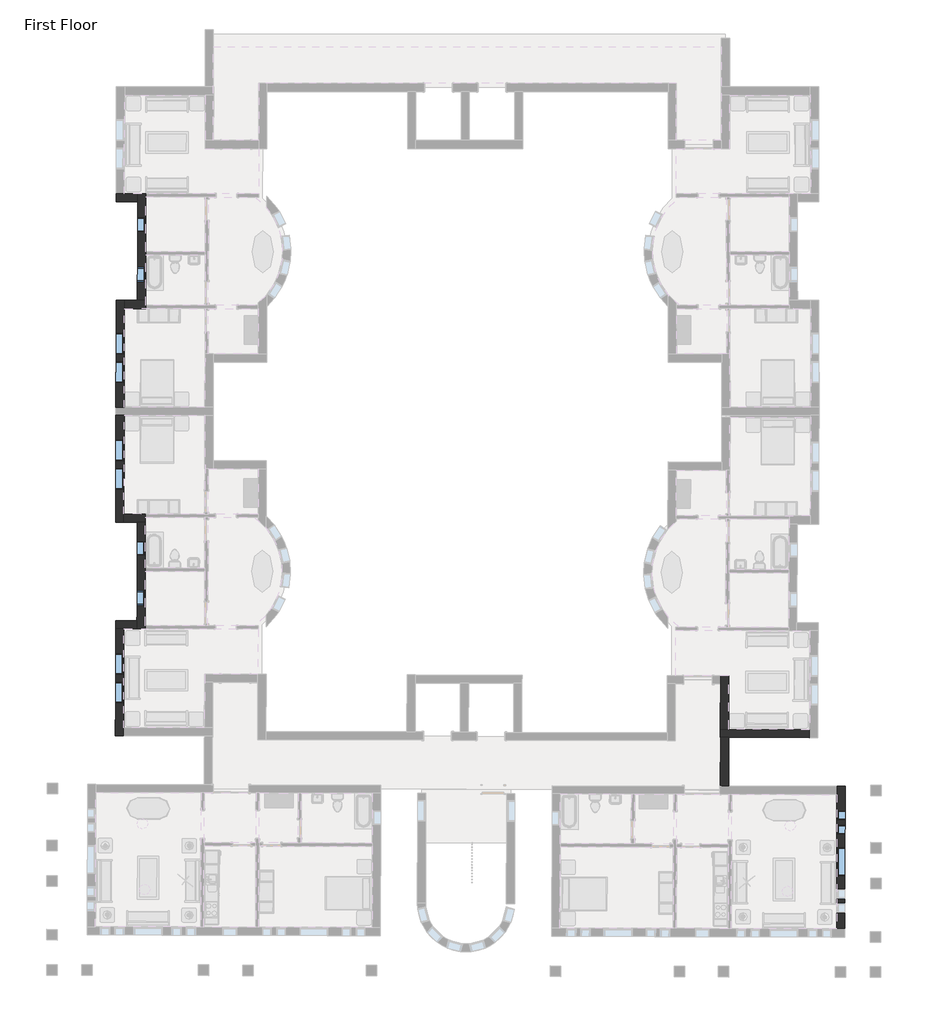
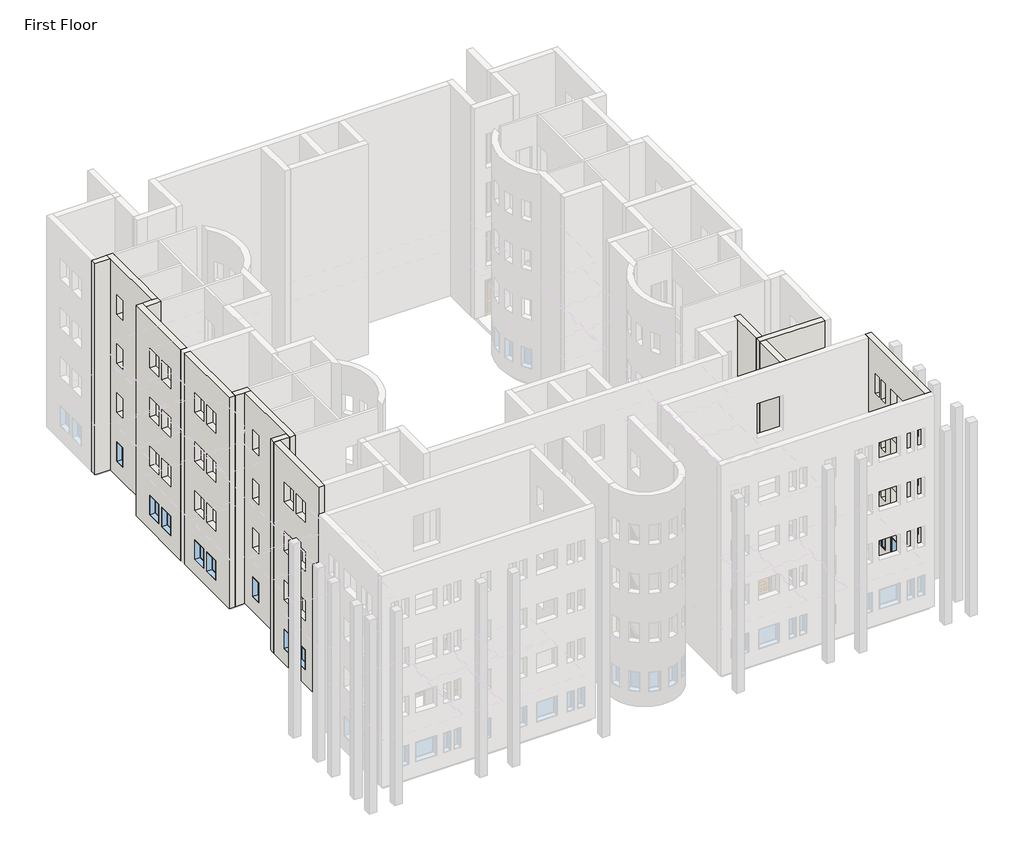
# One storey, part 5 of 22: 13 walls, 13 windows.
"""IFC4 building model written with IfcOpenShell, lengths in millimetres."""

from ifc_helpers import new_model, si_unit, origin, place, context, project, spatial, faceted_brep, transform, mapped, element, save
from components import m_fixed_0406_x_1220mm_57fee329, m_fixed_0610_x_1220mm_2c28ef1d, m_fixed_0610_x_1220mm_1ea27827, m_fixed_0915_x_1220mm_bde29121, m_fixed_0915_x_1220mm_2a2509e7, m_fixed_1220_x_1220mm_8f5f8ad3

model = new_model("IFC4")

# Units and contexts
model_context = context("Model", 3, world=origin())
ifc_project = project(units=[si_unit("LENGTHUNIT", "METRE", prefix="MILLI")], contexts=[model_context])

# Site, building, storey
site = spatial("IfcSite", under=ifc_project)
building = spatial("IfcBuilding", under=site)
storey = spatial("IfcBuildingStorey", under=building, Name="First Floor", Elevation=0.0)

# Walls
placement = place(None, origin())
element("IfcWall", 1, ObjectType="Exterior - Brick on Mtl. Stud", at=placement, inside=storey, context=model_context, shape_type="Brep", body=[
    faceted_brep([(-33657.6317367, -19488.7544857, 0.0), (-33651.5206937, -15266.7589083, 0.0), (-33651.0140937, -14916.759275, 0.0), (-33651.0140937, -14916.759275, 13107.0), (-33651.5206937, -15266.7589083, 13107.0), (-33657.6317367, -19488.7544857, 13107.0), (-33654.7963691, -17529.8565377, 915.0), (-33656.1207661, -18444.8555792, 915.0), (-33656.1207661, -18444.8555792, 2135.0), (-33654.7963691, -17529.8565377, 2135.0), (-33653.0316643, -16310.6578148, 915.0), (-33654.3560613, -17225.6568563, 915.0), (-33654.3560613, -17225.6568563, 2135.0), (-33653.0316643, -16310.6578148, 2135.0), (-33653.0316643, -16310.6578148, 10059.0), (-33654.3560613, -17225.6568563, 10059.0), (-33654.3560613, -17225.6568563, 11279.0), (-33653.0316643, -16310.6578148, 11279.0), (-33654.7963691, -17529.8565377, 10059.0), (-33656.1207661, -18444.8555792, 10059.0), (-33656.1207661, -18444.8555792, 11279.0), (-33654.7963691, -17529.8565377, 11279.0), (-33653.0316643, -16310.6578148, 3963.0), (-33654.3560613, -17225.6568563, 3963.0), (-33654.3560613, -17225.6568563, 5183.0), (-33653.0316643, -16310.6578148, 5183.0), (-33654.7963691, -17529.8565377, 3963.0), (-33656.1207661, -18444.8555792, 3963.0), (-33656.1207661, -18444.8555792, 5183.0), (-33654.7963691, -17529.8565377, 5183.0), (-33653.0316643, -16310.6578148, 7011.0), (-33654.3560613, -17225.6568563, 7011.0), (-33654.3560613, -17225.6568563, 8231.0), (-33653.0316643, -16310.6578148, 8231.0), (-33654.7963691, -17529.8565377, 7011.0), (-33656.1207661, -18444.8555792, 7011.0), (-33656.1207661, -18444.8555792, 8231.0), (-33654.7963691, -17529.8565377, 8231.0), (-34007.6313701, -19488.2478857, 0.0), (-34007.6313701, -19488.2478857, 13107.0), (-34001.0137271, -14916.252675, 13107.0), (-34001.0137271, -14916.252675, 0.0), (-34004.7960024, -17529.3499377, 915.0), (-34004.7960024, -17529.3499377, 2135.0), (-34006.1203995, -18444.3489792, 2135.0), (-34006.1203995, -18444.3489792, 915.0), (-34003.0312976, -16310.1512149, 915.0), (-34003.0312976, -16310.1512149, 2135.0), (-34004.3556947, -17225.1502564, 2135.0), (-34004.3556947, -17225.1502564, 915.0), (-34003.0312976, -16310.1512149, 10059.0), (-34003.0312976, -16310.1512149, 11279.0), (-34004.3556947, -17225.1502564, 11279.0), (-34004.3556947, -17225.1502564, 10059.0), (-34004.7960024, -17529.3499377, 10059.0), (-34004.7960024, -17529.3499377, 11279.0), (-34006.1203995, -18444.3489792, 11279.0), (-34006.1203995, -18444.3489792, 10059.0), (-34003.0312976, -16310.1512149, 3963.0), (-34003.0312976, -16310.1512149, 5183.0), (-34004.3556947, -17225.1502564, 5183.0), (-34004.3556947, -17225.1502564, 3963.0), (-34004.7960024, -17529.3499377, 3963.0), (-34004.7960024, -17529.3499377, 5183.0), (-34006.1203995, -18444.3489792, 5183.0), (-34006.1203995, -18444.3489792, 3963.0), (-34003.0312976, -16310.1512149, 7011.0), (-34003.0312976, -16310.1512149, 8231.0), (-34004.3556947, -17225.1502564, 8231.0), (-34004.3556947, -17225.1502564, 7011.0), (-34004.7960024, -17529.3499377, 7011.0), (-34004.7960024, -17529.3499377, 8231.0), (-34006.1203995, -18444.3489792, 8231.0), (-34006.1203995, -18444.3489792, 7011.0)], [[[0, 1, 2, 3, 4, 5], [6, 7, 8, 9], [10, 11, 12, 13], [14, 15, 16, 17], [18, 19, 20, 21], [22, 23, 24, 25], [26, 27, 28, 29], [30, 31, 32, 33], [34, 35, 36, 37]], [[38, 39, 40, 41], [42, 43, 44, 45], [46, 47, 48, 49], [50, 51, 52, 53], [54, 55, 56, 57], [58, 59, 60, 61], [62, 63, 64, 65], [66, 67, 68, 69], [70, 71, 72, 73]], [[2, 1, 0, 38, 41]], [[5, 4, 3, 40, 39]], [[0, 5, 39, 38]], [[3, 2, 41, 40]], [[43, 42, 6, 9]], [[44, 43, 9, 8]], [[45, 44, 8, 7]], [[42, 45, 7, 6]], [[47, 46, 10, 13]], [[48, 47, 13, 12]], [[49, 48, 12, 11]], [[46, 49, 11, 10]], [[51, 50, 14, 17]], [[52, 51, 17, 16]], [[53, 52, 16, 15]], [[50, 53, 15, 14]], [[55, 54, 18, 21]], [[56, 55, 21, 20]], [[57, 56, 20, 19]], [[54, 57, 19, 18]], [[59, 58, 22, 25]], [[60, 59, 25, 24]], [[61, 60, 24, 23]], [[58, 61, 23, 22]], [[63, 62, 26, 29]], [[64, 63, 29, 28]], [[65, 64, 28, 27]], [[62, 65, 27, 26]], [[67, 66, 30, 33]], [[68, 67, 33, 32]], [[69, 68, 32, 31]], [[66, 69, 31, 30]], [[71, 70, 34, 37]], [[72, 71, 37, 36]], [[73, 72, 36, 35]], [[70, 73, 35, 34]]]),
])
element("IfcWall", 2, ObjectType="Exterior - Brick on Mtl. Stud", at=placement, inside=storey, context=model_context, shape_type="Brep", body=[
    faceted_brep([(-33651.5206937, -15266.7589083, 0.0), (-32737.1216515, -15268.0824369, 0.0), (-32737.1216515, -15268.0824369, 13107.0), (-33651.5206937, -15266.7589083, 13107.0), (-33651.0140937, -14916.759275, 0.0), (-33651.0140937, -14916.759275, 13107.0), (-33086.6146849, -14917.5762036, 13107.0), (-32736.6150516, -14918.0828036, 13107.0), (-32736.6150516, -14918.0828036, 0.0), (-33086.6146849, -14917.5762036, 0.0), (-32736.9150311, -15125.3325865, 0.0), (-32737.1111577, -15260.8324445, 0.0), (-32737.1111577, -15260.8324445, 13107.0), (-32736.9150311, -15125.3325865, 13107.0)], [[[0, 1, 2, 3]], [[4, 5, 6, 7, 8, 9]], [[1, 0, 4, 9, 8, 10, 11]], [[3, 2, 12, 13, 7, 6, 5]], [[0, 3, 5, 4]], [[2, 1, 11, 10, 8, 7, 13, 12]]]),
])
element("IfcWall", 3, ObjectType="Exterior - Brick on Mtl. Stud", at=placement, inside=storey, context=model_context, shape_type="Brep", body=[
    faceted_brep([(-32736.6150516, -14918.0828036, 0.0), (-32733.7801182, -12959.4848553, 0.0), (-32733.5839916, -12823.9849972, 0.0), (-32730.204029, -10488.8374433, 0.0), (-32730.0079025, -10353.3375853, 0.0), (-32729.9974086, -10346.0875929, 0.0), (-32729.9974086, -10346.0875929, 13107.0), (-32730.0079025, -10353.3375853, 13107.0), (-32730.204029, -10488.8374433, 13107.0), (-32733.5839916, -12823.9849972, 13107.0), (-32733.7801182, -12959.4848553, 13107.0), (-32736.6150516, -14918.0828036, 13107.0), (-32734.5641178, -13501.1342879, 915.0), (-32735.4470492, -14111.1336489, 915.0), (-32735.4470492, -14111.1336489, 2135.0), (-32734.5641178, -13501.1342879, 2135.0), (-32731.4758844, -11367.5365229, 915.0), (-32732.3588158, -11977.5358839, 915.0), (-32732.3588158, -11977.5358839, 2135.0), (-32731.4758844, -11367.5365229, 2135.0), (-32731.4758844, -11367.5365229, 10059.0), (-32732.3588158, -11977.5358839, 10059.0), (-32732.3588158, -11977.5358839, 11279.0), (-32731.4758844, -11367.5365229, 11279.0), (-32734.5641178, -13501.1342879, 10059.0), (-32735.4470492, -14111.1336489, 10059.0), (-32735.4470492, -14111.1336489, 11279.0), (-32734.5641178, -13501.1342879, 11279.0), (-32731.4758844, -11367.5365229, 3963.0), (-32732.3588158, -11977.5358839, 3963.0), (-32732.3588158, -11977.5358839, 5183.0), (-32731.4758844, -11367.5365229, 5183.0), (-32734.5641178, -13501.1342879, 3963.0), (-32735.4470492, -14111.1336489, 3963.0), (-32735.4470492, -14111.1336489, 5183.0), (-32734.5641178, -13501.1342879, 5183.0), (-32731.4758844, -11367.5365229, 7011.0), (-32732.3588158, -11977.5358839, 7011.0), (-32732.3588158, -11977.5358839, 8231.0), (-32731.4758844, -11367.5365229, 8231.0), (-32734.5641178, -13501.1342879, 7011.0), (-32735.4470492, -14111.1336489, 7011.0), (-32735.4470492, -14111.1336489, 8231.0), (-32734.5641178, -13501.1342879, 8231.0), (-33086.6146849, -14917.5762036, 0.0), (-33086.6146849, -14917.5762036, 13107.0), (-33080.5036419, -10695.5806263, 13107.0), (-33079.997042, -10345.5809929, 13107.0), (-33079.997042, -10345.5809929, 0.0), (-33080.5036419, -10695.5806263, 0.0), (-33084.5637512, -13500.6276879, 915.0), (-33084.5637512, -13500.6276879, 2135.0), (-33085.4466825, -14110.6270489, 2135.0), (-33085.4466825, -14110.6270489, 915.0), (-33081.4755178, -11367.0299229, 915.0), (-33081.4755178, -11367.0299229, 2135.0), (-33082.3584491, -11977.0292839, 2135.0), (-33082.3584491, -11977.0292839, 915.0), (-33081.4755178, -11367.0299229, 10059.0), (-33081.4755178, -11367.0299229, 11279.0), (-33082.3584491, -11977.0292839, 11279.0), (-33082.3584491, -11977.0292839, 10059.0), (-33084.5637512, -13500.6276879, 10059.0), (-33084.5637512, -13500.6276879, 11279.0), (-33085.4466825, -14110.6270489, 11279.0), (-33085.4466825, -14110.6270489, 10059.0), (-33081.4755178, -11367.0299229, 3963.0), (-33081.4755178, -11367.0299229, 5183.0), (-33082.3584491, -11977.0292839, 5183.0), (-33082.3584491, -11977.0292839, 3963.0), (-33084.5637512, -13500.6276879, 3963.0), (-33084.5637512, -13500.6276879, 5183.0), (-33085.4466825, -14110.6270489, 5183.0), (-33085.4466825, -14110.6270489, 3963.0), (-33081.4755178, -11367.0299229, 7011.0), (-33081.4755178, -11367.0299229, 8231.0), (-33082.3584491, -11977.0292839, 8231.0), (-33082.3584491, -11977.0292839, 7011.0), (-33084.5637512, -13500.6276879, 7011.0), (-33084.5637512, -13500.6276879, 8231.0), (-33085.4466825, -14110.6270489, 8231.0), (-33085.4466825, -14110.6270489, 7011.0)], [[[0, 1, 2, 3, 4, 5, 6, 7, 8, 9, 10, 11], [12, 13, 14, 15], [16, 17, 18, 19], [20, 21, 22, 23], [24, 25, 26, 27], [28, 29, 30, 31], [32, 33, 34, 35], [36, 37, 38, 39], [40, 41, 42, 43]], [[44, 45, 46, 47, 48, 49], [50, 51, 52, 53], [54, 55, 56, 57], [58, 59, 60, 61], [62, 63, 64, 65], [66, 67, 68, 69], [70, 71, 72, 73], [74, 75, 76, 77], [78, 79, 80, 81]], [[5, 4, 3, 2, 1, 0, 44, 49, 48]], [[11, 10, 9, 8, 7, 6, 47, 46, 45]], [[0, 11, 45, 44]], [[6, 5, 48, 47]], [[51, 50, 12, 15]], [[52, 51, 15, 14]], [[53, 52, 14, 13]], [[50, 53, 13, 12]], [[55, 54, 16, 19]], [[56, 55, 19, 18]], [[57, 56, 18, 17]], [[54, 57, 17, 16]], [[59, 58, 20, 23]], [[60, 59, 23, 22]], [[61, 60, 22, 21]], [[58, 61, 21, 20]], [[63, 62, 24, 27]], [[64, 63, 27, 26]], [[65, 64, 26, 25]], [[62, 65, 25, 24]], [[67, 66, 28, 31]], [[68, 67, 31, 30]], [[69, 68, 30, 29]], [[66, 69, 29, 28]], [[71, 70, 32, 35]], [[72, 71, 35, 34]], [[73, 72, 34, 33]], [[70, 73, 33, 32]], [[75, 74, 36, 39]], [[76, 75, 39, 38]], [[77, 76, 38, 37]], [[74, 77, 37, 36]], [[79, 78, 40, 43]], [[80, 79, 43, 42]], [[81, 80, 42, 41]], [[78, 81, 41, 40]]]),
])
element("IfcWall", 4, ObjectType="Exterior - Brick on Mtl. Stud", at=placement, inside=storey, context=model_context, shape_type="Brep", body=[
    faceted_brep([(-33079.997042, -10345.5809929, 0.0), (-33644.3964507, -10344.7640643, 0.0), (-33809.3962779, -10344.5252386, 0.0), (-33994.3960841, -10344.2574643, 0.0), (-33994.3960841, -10344.2574643, 13107.0), (-33644.3964507, -10344.7640643, 13107.0), (-33079.997042, -10345.5809929, 13107.0), (-33080.5036419, -10695.5806263, 0.0), (-33080.5036419, -10695.5806263, 13107.0), (-33994.9026841, -10694.2570977, 13107.0), (-33994.9026841, -10694.2570977, 0.0), (-33809.9028779, -10694.5248719, 0.0), (-33080.2358677, -10510.58082, 0.0), (-33994.6349098, -10509.2572915, 0.0), (-33809.6351036, -10509.5250657, 0.0)], [[[0, 1, 2, 3, 4, 5, 6]], [[7, 8, 9, 10, 11]], [[6, 5, 4, 9, 8]], [[0, 6, 8, 7, 12]], [[4, 3, 13, 10, 9]], [[12, 7, 11, 14]], [[3, 2, 14, 13]], [[14, 11, 10, 13]], [[2, 1, 0, 12, 14]]]),
])
element("IfcWall", 5, ObjectType="Exterior - Brick on Mtl. Stud", at=placement, inside=storey, context=model_context, shape_type="Brep", body=[
    faceted_brep([(-2807.360214, -41823.0280554, 0.0), (-2790.2487325, -35912.0528231, 0.0), (-2789.7131845, -35727.0535983, 0.0), (-2789.7131845, -35727.0535983, 13107.0), (-2807.360214, -41823.0280554, 13107.0), (-2797.2774378, -38340.0426495, 915.0), (-2800.8091595, -39560.0375376, 915.0), (-2800.8091595, -39560.0375376, 2135.0), (-2797.2774378, -38340.0426495, 2135.0), (-2802.424488, -40118.0351996, 915.0), (-2803.5997987, -40524.0334984, 915.0), (-2803.5997987, -40524.0334984, 2135.0), (-2802.424488, -40118.0351996, 2135.0), (-2804.1903489, -40728.0326436, 915.0), (-2805.3656596, -41134.0309424, 915.0), (-2805.3656596, -41134.0309424, 2135.0), (-2804.1903489, -40728.0326436, 2135.0), (-2795.6621093, -37782.0449876, 915.0), (-2795.6621093, -37782.0449876, 2135.0), (-2794.4867986, -37376.0466888, 2135.0), (-2794.4867986, -37376.0466888, 915.0), (-2793.8962484, -37172.0475436, 915.0), (-2793.8962484, -37172.0475436, 2135.0), (-2792.7209377, -36766.0492448, 2135.0), (-2792.7209377, -36766.0492448, 915.0), (-2795.6621093, -37782.0449876, 10059.0), (-2795.6621093, -37782.0449876, 11279.0), (-2794.4867986, -37376.0466888, 11279.0), (-2794.4867986, -37376.0466888, 10059.0), (-2793.8962484, -37172.0475436, 10059.0), (-2793.8962484, -37172.0475436, 11279.0), (-2792.7209377, -36766.0492448, 11279.0), (-2792.7209377, -36766.0492448, 10059.0), (-2802.424488, -40118.0351996, 10059.0), (-2803.5997987, -40524.0334984, 10059.0), (-2803.5997987, -40524.0334984, 11279.0), (-2802.424488, -40118.0351996, 11279.0), (-2804.1903489, -40728.0326436, 10059.0), (-2805.3656596, -41134.0309424, 10059.0), (-2805.3656596, -41134.0309424, 11279.0), (-2804.1903489, -40728.0326436, 11279.0), (-2797.2774378, -38340.0426495, 10059.0), (-2800.8091595, -39560.0375376, 10059.0), (-2800.8091595, -39560.0375376, 11279.0), (-2797.2774378, -38340.0426495, 11279.0), (-2795.6621093, -37782.0449876, 3963.0), (-2795.6621093, -37782.0449876, 5183.0), (-2794.4867986, -37376.0466888, 5183.0), (-2794.4867986, -37376.0466888, 3963.0), (-2793.8962484, -37172.0475436, 3963.0), (-2793.8962484, -37172.0475436, 5183.0), (-2792.7209377, -36766.0492448, 5183.0), (-2792.7209377, -36766.0492448, 3963.0), (-2802.424488, -40118.0351996, 3963.0), (-2803.5997987, -40524.0334984, 3963.0), (-2803.5997987, -40524.0334984, 5183.0), (-2802.424488, -40118.0351996, 5183.0), (-2804.1903489, -40728.0326436, 3963.0), (-2805.3656596, -41134.0309424, 3963.0), (-2805.3656596, -41134.0309424, 5183.0), (-2804.1903489, -40728.0326436, 5183.0), (-2797.2774378, -38340.0426495, 3963.0), (-2800.8091595, -39560.0375376, 3963.0), (-2800.8091595, -39560.0375376, 5183.0), (-2797.2774378, -38340.0426495, 5183.0), (-2795.6621093, -37782.0449876, 7011.0), (-2795.6621093, -37782.0449876, 8231.0), (-2794.4867986, -37376.0466888, 8231.0), (-2794.4867986, -37376.0466888, 7011.0), (-2793.8962484, -37172.0475436, 7011.0), (-2793.8962484, -37172.0475436, 8231.0), (-2792.7209377, -36766.0492448, 8231.0), (-2792.7209377, -36766.0492448, 7011.0), (-2802.424488, -40118.0351996, 7011.0), (-2803.5997987, -40524.0334984, 7011.0), (-2803.5997987, -40524.0334984, 8231.0), (-2802.424488, -40118.0351996, 8231.0), (-2804.1903489, -40728.0326436, 7011.0), (-2805.3656596, -41134.0309424, 7011.0), (-2805.3656596, -41134.0309424, 8231.0), (-2804.1903489, -40728.0326436, 8231.0), (-2797.2774378, -38340.0426495, 7011.0), (-2800.8091595, -39560.0375376, 7011.0), (-2800.8091595, -39560.0375376, 8231.0), (-2797.2774378, -38340.0426495, 8231.0), (-3157.3587474, -41822.0148566, 0.0), (-3157.3587474, -41822.0148566, 13107.0), (-3140.7249168, -36076.0389329, 13107.0), (-3139.711718, -35726.0403994, 13107.0), (-3139.711718, -35726.0403994, 0.0), (-3140.2472659, -35911.0396242, 0.0), (-3140.7249168, -36076.0389329, 0.0), (-3147.2759712, -38339.0294507, 915.0), (-3147.2759712, -38339.0294507, 2135.0), (-3150.807693, -39559.0243388, 2135.0), (-3150.807693, -39559.0243388, 915.0), (-3152.4230215, -40117.0220007, 915.0), (-3152.4230215, -40117.0220007, 2135.0), (-3153.5983322, -40523.0202995, 2135.0), (-3153.5983322, -40523.0202995, 915.0), (-3154.1888824, -40727.0194447, 915.0), (-3154.1888824, -40727.0194447, 2135.0), (-3155.3641931, -41133.0177435, 2135.0), (-3155.3641931, -41133.0177435, 915.0), (-3145.6606427, -37781.0317888, 915.0), (-3144.4853321, -37375.0334899, 915.0), (-3144.4853321, -37375.0334899, 2135.0), (-3145.6606427, -37781.0317888, 2135.0), (-3143.8947819, -37171.0343447, 915.0), (-3142.7194712, -36765.0360459, 915.0), (-3142.7194712, -36765.0360459, 2135.0), (-3143.8947819, -37171.0343447, 2135.0), (-3145.6606427, -37781.0317888, 10059.0), (-3144.4853321, -37375.0334899, 10059.0), (-3144.4853321, -37375.0334899, 11279.0), (-3145.6606427, -37781.0317888, 11279.0), (-3143.8947819, -37171.0343447, 10059.0), (-3142.7194712, -36765.0360459, 10059.0), (-3142.7194712, -36765.0360459, 11279.0), (-3143.8947819, -37171.0343447, 11279.0), (-3152.4230215, -40117.0220007, 10059.0), (-3152.4230215, -40117.0220007, 11279.0), (-3153.5983322, -40523.0202995, 11279.0), (-3153.5983322, -40523.0202995, 10059.0), (-3154.1888824, -40727.0194447, 10059.0), (-3154.1888824, -40727.0194447, 11279.0), (-3155.3641931, -41133.0177435, 11279.0), (-3155.3641931, -41133.0177435, 10059.0), (-3147.2759712, -38339.0294507, 10059.0), (-3147.2759712, -38339.0294507, 11279.0), (-3150.807693, -39559.0243388, 11279.0), (-3150.807693, -39559.0243388, 10059.0), (-3145.6606427, -37781.0317888, 3963.0), (-3144.4853321, -37375.0334899, 3963.0), (-3144.4853321, -37375.0334899, 5183.0), (-3145.6606427, -37781.0317888, 5183.0), (-3143.8947819, -37171.0343447, 3963.0), (-3142.7194712, -36765.0360459, 3963.0), (-3142.7194712, -36765.0360459, 5183.0), (-3143.8947819, -37171.0343447, 5183.0), (-3152.4230215, -40117.0220007, 3963.0), (-3152.4230215, -40117.0220007, 5183.0), (-3153.5983322, -40523.0202995, 5183.0), (-3153.5983322, -40523.0202995, 3963.0), (-3154.1888824, -40727.0194447, 3963.0), (-3154.1888824, -40727.0194447, 5183.0), (-3155.3641931, -41133.0177435, 5183.0), (-3155.3641931, -41133.0177435, 3963.0), (-3147.2759712, -38339.0294507, 3963.0), (-3147.2759712, -38339.0294507, 5183.0), (-3150.807693, -39559.0243388, 5183.0), (-3150.807693, -39559.0243388, 3963.0), (-3145.6606427, -37781.0317888, 7011.0), (-3144.4853321, -37375.0334899, 7011.0), (-3144.4853321, -37375.0334899, 8231.0), (-3145.6606427, -37781.0317888, 8231.0), (-3143.8947819, -37171.0343447, 7011.0), (-3142.7194712, -36765.0360459, 7011.0), (-3142.7194712, -36765.0360459, 8231.0), (-3143.8947819, -37171.0343447, 8231.0), (-3152.4230215, -40117.0220007, 7011.0), (-3152.4230215, -40117.0220007, 8231.0), (-3153.5983322, -40523.0202995, 8231.0), (-3153.5983322, -40523.0202995, 7011.0), (-3154.1888824, -40727.0194447, 7011.0), (-3154.1888824, -40727.0194447, 8231.0), (-3155.3641931, -41133.0177435, 8231.0), (-3155.3641931, -41133.0177435, 7011.0), (-3147.2759712, -38339.0294507, 7011.0), (-3147.2759712, -38339.0294507, 8231.0), (-3150.807693, -39559.0243388, 8231.0), (-3150.807693, -39559.0243388, 7011.0), (-2974.7124093, -35726.5180503, 0.0), (-2992.3594388, -41822.4925075, 0.0), (-2975.2479573, -35911.5172751, 0.0)], [[[0, 1, 2, 3, 4], [5, 6, 7, 8], [9, 10, 11, 12], [13, 14, 15, 16], [17, 18, 19, 20], [21, 22, 23, 24], [25, 26, 27, 28], [29, 30, 31, 32], [33, 34, 35, 36], [37, 38, 39, 40], [41, 42, 43, 44], [45, 46, 47, 48], [49, 50, 51, 52], [53, 54, 55, 56], [57, 58, 59, 60], [61, 62, 63, 64], [65, 66, 67, 68], [69, 70, 71, 72], [73, 74, 75, 76], [77, 78, 79, 80], [81, 82, 83, 84]], [[85, 86, 87, 88, 89, 90, 91], [92, 93, 94, 95], [96, 97, 98, 99], [100, 101, 102, 103], [104, 105, 106, 107], [108, 109, 110, 111], [112, 113, 114, 115], [116, 117, 118, 119], [120, 121, 122, 123], [124, 125, 126, 127], [128, 129, 130, 131], [132, 133, 134, 135], [136, 137, 138, 139], [140, 141, 142, 143], [144, 145, 146, 147], [148, 149, 150, 151], [152, 153, 154, 155], [156, 157, 158, 159], [160, 161, 162, 163], [164, 165, 166, 167], [168, 169, 170, 171]], [[4, 3, 88, 87, 86]], [[93, 92, 5, 8]], [[94, 93, 8, 7]], [[95, 94, 7, 6]], [[92, 95, 6, 5]], [[97, 96, 9, 12]], [[98, 97, 12, 11]], [[99, 98, 11, 10]], [[96, 99, 10, 9]], [[101, 100, 13, 16]], [[102, 101, 16, 15]], [[103, 102, 15, 14]], [[100, 103, 14, 13]], [[18, 17, 104, 107]], [[19, 18, 107, 106]], [[20, 19, 106, 105]], [[17, 20, 105, 104]], [[22, 21, 108, 111]], [[23, 22, 111, 110]], [[24, 23, 110, 109]], [[21, 24, 109, 108]], [[26, 25, 112, 115]], [[27, 26, 115, 114]], [[28, 27, 114, 113]], [[25, 28, 113, 112]], [[30, 29, 116, 119]], [[31, 30, 119, 118]], [[32, 31, 118, 117]], [[29, 32, 117, 116]], [[121, 120, 33, 36]], [[122, 121, 36, 35]], [[123, 122, 35, 34]], [[120, 123, 34, 33]], [[125, 124, 37, 40]], [[126, 125, 40, 39]], [[127, 126, 39, 38]], [[124, 127, 38, 37]], [[129, 128, 41, 44]], [[130, 129, 44, 43]], [[131, 130, 43, 42]], [[128, 131, 42, 41]], [[46, 45, 132, 135]], [[47, 46, 135, 134]], [[48, 47, 134, 133]], [[45, 48, 133, 132]], [[50, 49, 136, 139]], [[51, 50, 139, 138]], [[52, 51, 138, 137]], [[49, 52, 137, 136]], [[141, 140, 53, 56]], [[142, 141, 56, 55]], [[143, 142, 55, 54]], [[140, 143, 54, 53]], [[145, 144, 57, 60]], [[146, 145, 60, 59]], [[147, 146, 59, 58]], [[144, 147, 58, 57]], [[149, 148, 61, 64]], [[150, 149, 64, 63]], [[151, 150, 63, 62]], [[148, 151, 62, 61]], [[66, 65, 152, 155]], [[67, 66, 155, 154]], [[68, 67, 154, 153]], [[65, 68, 153, 152]], [[70, 69, 156, 159]], [[71, 70, 159, 158]], [[72, 71, 158, 157]], [[69, 72, 157, 156]], [[161, 160, 73, 76]], [[162, 161, 76, 75]], [[163, 162, 75, 74]], [[160, 163, 74, 73]], [[165, 164, 77, 80]], [[166, 165, 80, 79]], [[167, 166, 79, 78]], [[164, 167, 78, 77]], [[169, 168, 81, 84]], [[170, 169, 84, 83]], [[171, 170, 83, 82]], [[168, 171, 82, 81]], [[3, 2, 172, 89, 88]], [[0, 4, 86, 85, 173]], [[90, 89, 172, 174]], [[1, 0, 173, 174]], [[2, 1, 174, 172]], [[173, 85, 91, 90, 174]]]),
])
element("IfcWall", 6, ObjectType="Exterior - Brick on Mtl. Stud", at=placement, inside=storey, context=model_context, shape_type="Brep", body=[
    faceted_brep([(-7779.4422769, -35712.609001, 0.0), (-7773.3981375, -33624.7267446, 0.0), (-7773.3981375, -33624.7267446, 13107.0), (-7779.4422769, -35712.609001, 13107.0), (-8129.4408104, -35711.5958021, 0.0), (-8129.4408104, -35711.5958021, 13107.0), (-8123.3952044, -33623.2069473, 13107.0), (-8123.3952044, -33623.2069473, 0.0), (-7964.4415018, -35712.073453, 0.0), (-7958.3965872, -33623.9234232, 0.0)], [[[0, 1, 2, 3]], [[4, 5, 6, 7]], [[3, 2, 6, 5]], [[0, 3, 5, 4, 8]], [[1, 0, 8, 9]], [[2, 1, 9, 7, 6]], [[8, 4, 7, 9]]]),
])
element("IfcWall", 7, ObjectType="Exterior - Brick on Mtl. Stud", at=placement, inside=storey, context=model_context, shape_type="Brep", body=[
    faceted_brep([(-4315.2201221, -33289.7399404, 0.0), (-7775.1875022, -33274.7156749, 0.0), (-7940.1859467, -33273.9991998, 0.0), (-8125.1842025, -33273.1958792, 0.0), (-8125.1842025, -33273.1958792, 13107.0), (-7775.1875022, -33274.7156749, 13107.0), (-4315.2201221, -33289.7399404, 13107.0), (-4316.7399178, -33639.7366407, 0.0), (-4316.7399178, -33639.7366407, 13107.0), (-7773.3981375, -33624.7267446, 13107.0), (-8123.3952044, -33623.2069473, 13107.0), (-8126.7039982, -33623.1925795, 13107.0), (-8126.7039982, -33623.1925795, 0.0), (-8123.3952044, -33623.2069473, 0.0), (-7941.7057423, -33623.9959001, 0.0), (-7773.3981375, -33624.7267446, 0.0), (-4315.9365972, -33454.7383849, 0.0), (-8125.9006776, -33438.1943236, 0.0), (-7940.9024218, -33438.9976442, 0.0)], [[[0, 1, 2, 3, 4, 5, 6]], [[7, 8, 9, 10, 11, 12, 13, 14, 15]], [[6, 5, 4, 11, 10, 9, 8]], [[0, 6, 8, 7, 16]], [[4, 3, 17, 12, 11]], [[16, 7, 15, 14, 18]], [[3, 2, 18, 17]], [[18, 14, 13, 12, 17]], [[2, 1, 0, 16, 18]]]),
])
element("IfcWall", 8, ObjectType="Exterior - Brick on Mtl. Stud", at=placement, inside=storey, context=model_context, shape_type="Brep", body=[
    faceted_brep([(-7775.1875022, -33274.7156749, 0.0), (-7765.9775406, -31153.735671, 0.0), (-7765.2610655, -30988.7372266, 0.0), (-7765.2610655, -30988.7372266, 13107.0), (-7775.1875022, -33274.7156749, 13107.0), (-8125.1842025, -33273.1958792, 0.0), (-8125.1842025, -33273.1958792, 13107.0), (-8116.7775614, -31337.2141313, 13107.0), (-8115.2577658, -30987.217431, 13107.0), (-8115.2577658, -30987.217431, 0.0), (-8115.9742409, -31152.2158754, 0.0), (-8116.7775614, -31337.2141313, 0.0), (-7940.1859467, -33273.9991998, 0.0), (-7930.975985, -31153.0191959, 0.0)], [[[0, 1, 2, 3, 4]], [[5, 6, 7, 8, 9, 10, 11]], [[4, 3, 8, 7, 6]], [[0, 4, 6, 5, 12]], [[12, 5, 11, 10, 13]], [[10, 9, 2, 1, 0, 12, 13]], [[3, 2, 9, 8]]]),
])
element("IfcWall", 9, ObjectType="Exterior - Brick on Mtl. Stud", at=placement, inside=storey, context=model_context, shape_type="Brep", body=[
    faceted_brep([(-34008.13797, -19838.2475191, 0.0), (-34014.755613, -24410.2427298, 0.0), (-34014.755613, -24410.2427298, 13107.0), (-34008.13797, -19838.2475191, 13107.0), (-34010.9733377, -21797.1454671, 915.0), (-34009.6489406, -20882.1464256, 915.0), (-34009.6489406, -20882.1464256, 2135.0), (-34010.9733377, -21797.1454671, 2135.0), (-34012.7380425, -23016.34419, 915.0), (-34011.4136454, -22101.3451484, 915.0), (-34011.4136454, -22101.3451484, 2135.0), (-34012.7380425, -23016.34419, 2135.0), (-34012.7380425, -23016.34419, 10059.0), (-34011.4136454, -22101.3451484, 10059.0), (-34011.4136454, -22101.3451484, 11279.0), (-34012.7380425, -23016.34419, 11279.0), (-34010.9733377, -21797.1454671, 10059.0), (-34009.6489406, -20882.1464256, 10059.0), (-34009.6489406, -20882.1464256, 11279.0), (-34010.9733377, -21797.1454671, 11279.0), (-34012.7380425, -23016.34419, 3963.0), (-34011.4136454, -22101.3451484, 3963.0), (-34011.4136454, -22101.3451484, 5183.0), (-34012.7380425, -23016.34419, 5183.0), (-34010.9733377, -21797.1454671, 3963.0), (-34009.6489406, -20882.1464256, 3963.0), (-34009.6489406, -20882.1464256, 5183.0), (-34010.9733377, -21797.1454671, 5183.0), (-34012.7380425, -23016.34419, 7011.0), (-34011.4136454, -22101.3451484, 7011.0), (-34011.4136454, -22101.3451484, 8231.0), (-34012.7380425, -23016.34419, 8231.0), (-34010.9733377, -21797.1454671, 7011.0), (-34009.6489406, -20882.1464256, 7011.0), (-34009.6489406, -20882.1464256, 8231.0), (-34010.9733377, -21797.1454671, 8231.0), (-33658.1383367, -19838.7541191, 0.0), (-33658.1383367, -19838.7541191, 13107.0), (-33664.2493797, -24060.7496964, 13107.0), (-33664.7559796, -24410.7493298, 13107.0), (-33664.7559796, -24410.7493298, 0.0), (-33664.2493797, -24060.7496964, 0.0), (-33660.9737043, -21797.6520671, 915.0), (-33660.9737043, -21797.6520671, 2135.0), (-33659.6493073, -20882.6530255, 2135.0), (-33659.6493073, -20882.6530255, 915.0), (-33662.7384091, -23016.8507899, 915.0), (-33662.7384091, -23016.8507899, 2135.0), (-33661.414012, -22101.8517484, 2135.0), (-33661.414012, -22101.8517484, 915.0), (-33662.7384091, -23016.8507899, 10059.0), (-33662.7384091, -23016.8507899, 11279.0), (-33661.414012, -22101.8517484, 11279.0), (-33661.414012, -22101.8517484, 10059.0), (-33660.9737043, -21797.6520671, 10059.0), (-33660.9737043, -21797.6520671, 11279.0), (-33659.6493073, -20882.6530255, 11279.0), (-33659.6493073, -20882.6530255, 10059.0), (-33662.7384091, -23016.8507899, 3963.0), (-33662.7384091, -23016.8507899, 5183.0), (-33661.414012, -22101.8517484, 5183.0), (-33661.414012, -22101.8517484, 3963.0), (-33660.9737043, -21797.6520671, 3963.0), (-33660.9737043, -21797.6520671, 5183.0), (-33659.6493073, -20882.6530255, 5183.0), (-33659.6493073, -20882.6530255, 3963.0), (-33662.7384091, -23016.8507899, 7011.0), (-33662.7384091, -23016.8507899, 8231.0), (-33661.414012, -22101.8517484, 8231.0), (-33661.414012, -22101.8517484, 7011.0), (-33660.9737043, -21797.6520671, 7011.0), (-33660.9737043, -21797.6520671, 8231.0), (-33659.6493073, -20882.6530255, 8231.0), (-33659.6493073, -20882.6530255, 7011.0)], [[[0, 1, 2, 3], [4, 5, 6, 7], [8, 9, 10, 11], [12, 13, 14, 15], [16, 17, 18, 19], [20, 21, 22, 23], [24, 25, 26, 27], [28, 29, 30, 31], [32, 33, 34, 35]], [[36, 37, 38, 39, 40, 41], [42, 43, 44, 45], [46, 47, 48, 49], [50, 51, 52, 53], [54, 55, 56, 57], [58, 59, 60, 61], [62, 63, 64, 65], [66, 67, 68, 69], [70, 71, 72, 73]], [[1, 0, 36, 41, 40]], [[3, 2, 39, 38, 37]], [[2, 1, 40, 39]], [[43, 42, 4, 7]], [[44, 43, 7, 6]], [[45, 44, 6, 5]], [[42, 45, 5, 4]], [[47, 46, 8, 11]], [[48, 47, 11, 10]], [[49, 48, 10, 9]], [[46, 49, 9, 8]], [[51, 50, 12, 15]], [[52, 51, 15, 14]], [[53, 52, 14, 13]], [[50, 53, 13, 12]], [[55, 54, 16, 19]], [[56, 55, 19, 18]], [[57, 56, 18, 17]], [[54, 57, 17, 16]], [[59, 58, 20, 23]], [[60, 59, 23, 22]], [[61, 60, 22, 21]], [[58, 61, 21, 20]], [[63, 62, 24, 27]], [[64, 63, 27, 26]], [[65, 64, 26, 25]], [[62, 65, 25, 24]], [[67, 66, 28, 31]], [[68, 67, 31, 30]], [[69, 68, 30, 29]], [[66, 69, 29, 28]], [[71, 70, 32, 35]], [[72, 71, 35, 34]], [[73, 72, 34, 33]], [[70, 73, 33, 32]], [[0, 3, 37, 36]]]),
])
element("IfcWall", 10, ObjectType="Exterior - Brick on Mtl. Stud", at=placement, inside=storey, context=model_context, shape_type="Brep", body=[
    faceted_brep([(-33664.7559796, -24410.7493298, 0.0), (-33100.3565709, -24411.5662584, 0.0), (-32750.3569375, -24412.0728584, 0.0), (-32750.3569375, -24412.0728584, 13107.0), (-33100.3565709, -24411.5662584, 13107.0), (-33664.7559796, -24410.7493298, 13107.0), (-33664.2493797, -24060.7496964, 0.0), (-33664.2493797, -24060.7496964, 13107.0), (-32749.8503375, -24062.073225, 13107.0), (-32749.8503375, -24062.073225, 0.0), (-32749.8608314, -24069.3232174, 0.0), (-32750.056958, -24204.8230755, 0.0), (-32750.056958, -24204.8230755, 13107.0), (-32749.8608314, -24069.3232174, 13107.0)], [[[0, 1, 2, 3, 4, 5]], [[6, 7, 8, 9]], [[2, 1, 0, 6, 9, 10, 11]], [[5, 4, 3, 12, 13, 8, 7]], [[0, 5, 7, 6]], [[3, 2, 11, 10, 9, 8, 13, 12]]]),
])
element("IfcWall", 11, ObjectType="Exterior - Brick on Mtl. Stud", at=placement, inside=storey, context=model_context, shape_type="Brep", body=[
    faceted_brep([(-33100.3565709, -24411.5662584, 0.0), (-33106.4676139, -28633.5618357, 0.0), (-33106.9742139, -28983.5614691, 0.0), (-33106.9742139, -28983.5614691, 13107.0), (-33106.4676139, -28633.5618357, 13107.0), (-33100.3565709, -24411.5662584, 13107.0), (-33102.4075046, -25828.5147741, 915.0), (-33101.5245733, -25218.5154131, 915.0), (-33101.5245733, -25218.5154131, 2135.0), (-33102.4075046, -25828.5147741, 2135.0), (-33105.495738, -27962.1125391, 915.0), (-33104.6128067, -27352.1131781, 915.0), (-33104.6128067, -27352.1131781, 2135.0), (-33105.495738, -27962.1125391, 2135.0), (-33105.495738, -27962.1125391, 10059.0), (-33104.6128067, -27352.1131781, 10059.0), (-33104.6128067, -27352.1131781, 11279.0), (-33105.495738, -27962.1125391, 11279.0), (-33102.4075046, -25828.5147741, 10059.0), (-33101.5245733, -25218.5154131, 10059.0), (-33101.5245733, -25218.5154131, 11279.0), (-33102.4075046, -25828.5147741, 11279.0), (-33105.495738, -27962.1125391, 3963.0), (-33104.6128067, -27352.1131781, 3963.0), (-33104.6128067, -27352.1131781, 5183.0), (-33105.495738, -27962.1125391, 5183.0), (-33102.4075046, -25828.5147741, 3963.0), (-33101.5245733, -25218.5154131, 3963.0), (-33101.5245733, -25218.5154131, 5183.0), (-33102.4075046, -25828.5147741, 5183.0), (-33105.495738, -27962.1125391, 7011.0), (-33104.6128067, -27352.1131781, 7011.0), (-33104.6128067, -27352.1131781, 8231.0), (-33105.495738, -27962.1125391, 8231.0), (-33102.4075046, -25828.5147741, 7011.0), (-33101.5245733, -25218.5154131, 7011.0), (-33101.5245733, -25218.5154131, 8231.0), (-33102.4075046, -25828.5147741, 8231.0), (-32750.3569375, -24412.0728584, 0.0), (-32750.3569375, -24412.0728584, 13107.0), (-32753.1918709, -26370.6708067, 13107.0), (-32753.3879975, -26506.1706647, 13107.0), (-32756.7679601, -28841.3182186, 13107.0), (-32756.9640866, -28976.8180767, 13107.0), (-32756.9745805, -28984.0680691, 13107.0), (-32756.9745805, -28984.0680691, 0.0), (-32756.9640866, -28976.8180767, 0.0), (-32756.7679601, -28841.3182186, 0.0), (-32753.3879975, -26506.1706647, 0.0), (-32753.1918709, -26370.6708067, 0.0), (-32752.4078713, -25829.0213741, 915.0), (-32752.4078713, -25829.0213741, 2135.0), (-32751.5249399, -25219.0220131, 2135.0), (-32751.5249399, -25219.0220131, 915.0), (-32755.4961047, -27962.6191391, 915.0), (-32755.4961047, -27962.6191391, 2135.0), (-32754.6131733, -27352.6197781, 2135.0), (-32754.6131733, -27352.6197781, 915.0), (-32755.4961047, -27962.6191391, 10059.0), (-32755.4961047, -27962.6191391, 11279.0), (-32754.6131733, -27352.6197781, 11279.0), (-32754.6131733, -27352.6197781, 10059.0), (-32752.4078713, -25829.0213741, 10059.0), (-32752.4078713, -25829.0213741, 11279.0), (-32751.5249399, -25219.0220131, 11279.0), (-32751.5249399, -25219.0220131, 10059.0), (-32755.4961047, -27962.6191391, 3963.0), (-32755.4961047, -27962.6191391, 5183.0), (-32754.6131733, -27352.6197781, 5183.0), (-32754.6131733, -27352.6197781, 3963.0), (-32752.4078713, -25829.0213741, 3963.0), (-32752.4078713, -25829.0213741, 5183.0), (-32751.5249399, -25219.0220131, 5183.0), (-32751.5249399, -25219.0220131, 3963.0), (-32755.4961047, -27962.6191391, 7011.0), (-32755.4961047, -27962.6191391, 8231.0), (-32754.6131733, -27352.6197781, 8231.0), (-32754.6131733, -27352.6197781, 7011.0), (-32752.4078713, -25829.0213741, 7011.0), (-32752.4078713, -25829.0213741, 8231.0), (-32751.5249399, -25219.0220131, 8231.0), (-32751.5249399, -25219.0220131, 7011.0)], [[[0, 1, 2, 3, 4, 5], [6, 7, 8, 9], [10, 11, 12, 13], [14, 15, 16, 17], [18, 19, 20, 21], [22, 23, 24, 25], [26, 27, 28, 29], [30, 31, 32, 33], [34, 35, 36, 37]], [[38, 39, 40, 41, 42, 43, 44, 45, 46, 47, 48, 49], [50, 51, 52, 53], [54, 55, 56, 57], [58, 59, 60, 61], [62, 63, 64, 65], [66, 67, 68, 69], [70, 71, 72, 73], [74, 75, 76, 77], [78, 79, 80, 81]], [[2, 1, 0, 38, 49, 48, 47, 46, 45]], [[5, 4, 3, 44, 43, 42, 41, 40, 39]], [[0, 5, 39, 38]], [[3, 2, 45, 44]], [[51, 50, 6, 9]], [[52, 51, 9, 8]], [[53, 52, 8, 7]], [[50, 53, 7, 6]], [[55, 54, 10, 13]], [[56, 55, 13, 12]], [[57, 56, 12, 11]], [[54, 57, 11, 10]], [[59, 58, 14, 17]], [[60, 59, 17, 16]], [[61, 60, 16, 15]], [[58, 61, 15, 14]], [[63, 62, 18, 21]], [[64, 63, 21, 20]], [[65, 64, 20, 19]], [[62, 65, 19, 18]], [[67, 66, 22, 25]], [[68, 67, 25, 24]], [[69, 68, 24, 23]], [[66, 69, 23, 22]], [[71, 70, 26, 29]], [[72, 71, 29, 28]], [[73, 72, 28, 27]], [[70, 73, 27, 26]], [[75, 74, 30, 33]], [[76, 75, 33, 32]], [[77, 76, 32, 31]], [[74, 77, 31, 30]], [[79, 78, 34, 37]], [[80, 79, 37, 36]], [[81, 80, 36, 35]], [[78, 81, 35, 34]]]),
])
element("IfcWall", 12, ObjectType="Exterior - Brick on Mtl. Stud", at=placement, inside=storey, context=model_context, shape_type="Brep", body=[
    faceted_brep([(-33106.4676139, -28633.5618357, 0.0), (-33835.8668498, -28632.5060814, 0.0), (-34020.866656, -28632.2383072, 0.0), (-34020.866656, -28632.2383072, 13107.0), (-33106.4676139, -28633.5618357, 13107.0), (-33106.9742139, -28983.5614691, 0.0), (-33106.9742139, -28983.5614691, 13107.0), (-33671.3736226, -28982.7445405, 13107.0), (-34021.373256, -28982.2379405, 13107.0), (-34021.373256, -28982.2379405, 0.0), (-33836.3734498, -28982.5057148, 0.0), (-33671.3736226, -28982.7445405, 0.0), (-33106.7353882, -28818.561642, 0.0), (-34021.1344303, -28817.2381134, 0.0), (-33836.1346241, -28817.5058876, 0.0)], [[[0, 1, 2, 3, 4]], [[5, 6, 7, 8, 9, 10, 11]], [[4, 3, 8, 7, 6]], [[0, 4, 6, 5, 12]], [[3, 2, 13, 9, 8]], [[10, 9, 13, 14]], [[1, 0, 12, 14]], [[2, 1, 14, 13]], [[12, 5, 11, 10, 14]]]),
])
element("IfcWall", 13, ObjectType="Exterior - Brick on Mtl. Stud", at=placement, inside=storey, context=model_context, shape_type="Brep", body=[
    faceted_brep([(-34021.373256, -28982.2379405, 0.0), (-34027.7231247, -33369.233345, 0.0), (-34027.990899, -33554.2331512, 0.0), (-34027.990899, -33554.2331512, 13107.0), (-34021.373256, -28982.2379405, 13107.0), (-34024.2086236, -30941.1358885, 915.0), (-34022.8842266, -30026.136847, 915.0), (-34022.8842266, -30026.136847, 2135.0), (-34024.2086236, -30941.1358885, 2135.0), (-34025.9733284, -32160.3346114, 915.0), (-34024.6489314, -31245.3355699, 915.0), (-34024.6489314, -31245.3355699, 2135.0), (-34025.9733284, -32160.3346114, 2135.0), (-34025.9733284, -32160.3346114, 10059.0), (-34024.6489314, -31245.3355699, 10059.0), (-34024.6489314, -31245.3355699, 11279.0), (-34025.9733284, -32160.3346114, 11279.0), (-34024.2086236, -30941.1358885, 10059.0), (-34022.8842266, -30026.136847, 10059.0), (-34022.8842266, -30026.136847, 11279.0), (-34024.2086236, -30941.1358885, 11279.0), (-34025.9733284, -32160.3346114, 3963.0), (-34024.6489314, -31245.3355699, 3963.0), (-34024.6489314, -31245.3355699, 5183.0), (-34025.9733284, -32160.3346114, 5183.0), (-34024.2086236, -30941.1358885, 3963.0), (-34022.8842266, -30026.136847, 3963.0), (-34022.8842266, -30026.136847, 5183.0), (-34024.2086236, -30941.1358885, 5183.0), (-34025.9733284, -32160.3346114, 7011.0), (-34024.6489314, -31245.3355699, 7011.0), (-34024.6489314, -31245.3355699, 8231.0), (-34025.9733284, -32160.3346114, 8231.0), (-34024.2086236, -30941.1358885, 7011.0), (-34022.8842266, -30026.136847, 7011.0), (-34022.8842266, -30026.136847, 8231.0), (-34024.2086236, -30941.1358885, 8231.0), (-33671.3736226, -28982.7445405, 0.0), (-33671.3736226, -28982.7445405, 13107.0), (-33677.4846656, -33204.7401178, 13107.0), (-33677.9912656, -33554.7397512, 13107.0), (-33677.9912656, -33554.7397512, 0.0), (-33677.7234913, -33369.739945, 0.0), (-33677.4846656, -33204.7401178, 0.0), (-33674.2089903, -30941.6424885, 915.0), (-33674.2089903, -30941.6424885, 2135.0), (-33672.8845932, -30026.643447, 2135.0), (-33672.8845932, -30026.643447, 915.0), (-33675.9736951, -32160.8412113, 915.0), (-33675.9736951, -32160.8412113, 2135.0), (-33674.649298, -31245.8421698, 2135.0), (-33674.649298, -31245.8421698, 915.0), (-33675.9736951, -32160.8412113, 10059.0), (-33675.9736951, -32160.8412113, 11279.0), (-33674.649298, -31245.8421698, 11279.0), (-33674.649298, -31245.8421698, 10059.0), (-33674.2089903, -30941.6424885, 10059.0), (-33674.2089903, -30941.6424885, 11279.0), (-33672.8845932, -30026.643447, 11279.0), (-33672.8845932, -30026.643447, 10059.0), (-33675.9736951, -32160.8412113, 3963.0), (-33675.9736951, -32160.8412113, 5183.0), (-33674.649298, -31245.8421698, 5183.0), (-33674.649298, -31245.8421698, 3963.0), (-33674.2089903, -30941.6424885, 3963.0), (-33674.2089903, -30941.6424885, 5183.0), (-33672.8845932, -30026.643447, 5183.0), (-33672.8845932, -30026.643447, 3963.0), (-33675.9736951, -32160.8412113, 7011.0), (-33675.9736951, -32160.8412113, 8231.0), (-33674.649298, -31245.8421698, 8231.0), (-33674.649298, -31245.8421698, 7011.0), (-33674.2089903, -30941.6424885, 7011.0), (-33674.2089903, -30941.6424885, 8231.0), (-33672.8845932, -30026.643447, 8231.0), (-33672.8845932, -30026.643447, 7011.0), (-33836.3734498, -28982.5057148, 0.0), (-33842.9910928, -33554.5009255, 0.0), (-33842.7233185, -33369.5011193, 0.0)], [[[0, 1, 2, 3, 4], [5, 6, 7, 8], [9, 10, 11, 12], [13, 14, 15, 16], [17, 18, 19, 20], [21, 22, 23, 24], [25, 26, 27, 28], [29, 30, 31, 32], [33, 34, 35, 36]], [[37, 38, 39, 40, 41, 42, 43], [44, 45, 46, 47], [48, 49, 50, 51], [52, 53, 54, 55], [56, 57, 58, 59], [60, 61, 62, 63], [64, 65, 66, 67], [68, 69, 70, 71], [72, 73, 74, 75]], [[4, 3, 40, 39, 38]], [[0, 4, 38, 37, 76]], [[3, 2, 77, 41, 40]], [[45, 44, 5, 8]], [[46, 45, 8, 7]], [[47, 46, 7, 6]], [[44, 47, 6, 5]], [[49, 48, 9, 12]], [[50, 49, 12, 11]], [[51, 50, 11, 10]], [[48, 51, 10, 9]], [[42, 41, 77, 78]], [[1, 0, 76, 78]], [[2, 1, 78, 77]], [[53, 52, 13, 16]], [[54, 53, 16, 15]], [[55, 54, 15, 14]], [[52, 55, 14, 13]], [[57, 56, 17, 20]], [[58, 57, 20, 19]], [[59, 58, 19, 18]], [[56, 59, 18, 17]], [[61, 60, 21, 24]], [[62, 61, 24, 23]], [[63, 62, 23, 22]], [[60, 63, 22, 21]], [[65, 64, 25, 28]], [[66, 65, 28, 27]], [[67, 66, 27, 26]], [[64, 67, 26, 25]], [[69, 68, 29, 32]], [[70, 69, 32, 31]], [[71, 70, 31, 30]], [[68, 71, 30, 29]], [[73, 72, 33, 36]], [[74, 73, 36, 35]], [[75, 74, 35, 34]], [[72, 75, 34, 33]], [[76, 37, 43, 42, 78]]]),
])

# Windows
m_fixed_0406_x_1220mm_shape = m_fixed_0406_x_1220mm_57fee329(model_context)
element("IfcWindow", 14, ObjectType="M_Fixed : 0406 x 1220mm", at=placement, inside=storey, context=model_context, shape_type="MappedRepresentation", body=[
    mapped(m_fixed_0406_x_1220mm_shape, transform((-2955.3079143, -36968.5794278, 0.0), x_axis=(0.0028948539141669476, 0.9999958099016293, 0.0), y_axis=(-0.9999958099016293, 0.0028948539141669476, 0.0), z_axis=(0.0, 0.0, 1.0))),
])
element("IfcWindow", 15, ObjectType="M_Fixed : 0406 x 1220mm", at=placement, inside=storey, context=model_context, shape_type="MappedRepresentation", body=[
    mapped(m_fixed_0406_x_1220mm_shape, transform((-2957.0737751, -37578.5768719, 0.0), x_axis=(0.0028948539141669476, 0.9999958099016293, 0.0), y_axis=(-0.9999958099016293, 0.0028948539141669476, 0.0), z_axis=(0.0, 0.0, 1.0))),
])
m_fixed_0610_x_1220mm_shape = m_fixed_0610_x_1220mm_2c28ef1d(model_context)
element("IfcWindow", 16, ObjectType="M_Fixed : 0610 x 1220mm", at=placement, inside=storey, context=model_context, shape_type="MappedRepresentation", body=[
    mapped(m_fixed_0610_x_1220mm_shape, transform((-32923.0053866, -13805.8618518, 0.0), x_axis=(-0.0014474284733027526, -0.9999989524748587, 0.0), y_axis=(0.9999989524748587, -0.0014474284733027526, 0.0), z_axis=(0.0, 0.0, 1.0))),
])
element("IfcWindow", 17, ObjectType="M_Fixed : 0610 x 1220mm", at=placement, inside=storey, context=model_context, shape_type="MappedRepresentation", body=[
    mapped(m_fixed_0610_x_1220mm_shape, transform((-32919.9171532, -11672.2640868, 0.0), x_axis=(-0.0014474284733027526, -0.9999989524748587, 0.0), y_axis=(0.9999989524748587, -0.0014474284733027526, 0.0), z_axis=(0.0, 0.0, 1.0))),
])
m_fixed_0610_x_1220mm_2_shape = m_fixed_0610_x_1220mm_1ea27827(model_context)
element("IfcWindow", 18, ObjectType="M_Fixed : 0610 x 1220mm", at=placement, inside=storey, context=model_context, shape_type="MappedRepresentation", body=[
    mapped(m_fixed_0610_x_1220mm_2_shape, transform((-32939.9662087, -25523.749577, 0.0), x_axis=(0.0014474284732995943, 0.9999989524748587, 0.0), y_axis=(-0.9999989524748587, 0.0014474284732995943, 0.0), z_axis=(0.0, 0.0, 1.0))),
])
element("IfcWindow", 19, ObjectType="M_Fixed : 0610 x 1220mm", at=placement, inside=storey, context=model_context, shape_type="MappedRepresentation", body=[
    mapped(m_fixed_0610_x_1220mm_2_shape, transform((-32943.0544421, -27657.347342, 0.0), x_axis=(0.0014474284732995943, 0.9999989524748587, 0.0), y_axis=(-0.9999989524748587, 0.0014474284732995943, 0.0), z_axis=(0.0, 0.0, 1.0))),
])
m_fixed_0915_x_1220mm_shape = m_fixed_0915_x_1220mm_bde29121(model_context)
element("IfcWindow", 20, ObjectType="M_Fixed : 0915 x 1220mm", at=placement, inside=storey, context=model_context, shape_type="MappedRepresentation", body=[
    mapped(m_fixed_0915_x_1220mm_shape, transform((-33843.4583707, -17987.0839419, 0.0), x_axis=(-0.0014474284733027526, -0.9999989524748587, 0.0), y_axis=(0.9999989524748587, -0.0014474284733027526, 0.0), z_axis=(0.0, 0.0, 1.0))),
])
element("IfcWindow", 21, ObjectType="M_Fixed : 0915 x 1220mm", at=placement, inside=storey, context=model_context, shape_type="MappedRepresentation", body=[
    mapped(m_fixed_0915_x_1220mm_shape, transform((-33841.6936659, -16767.885219, 0.0), x_axis=(-0.0014474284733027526, -0.9999989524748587, 0.0), y_axis=(0.9999989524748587, -0.0014474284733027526, 0.0), z_axis=(0.0, 0.0, 1.0))),
])
m_fixed_0915_x_1220mm_2_shape = m_fixed_0915_x_1220mm_2a2509e7(model_context)
element("IfcWindow", 22, ObjectType="M_Fixed : 0915 x 1220mm", at=placement, inside=storey, context=model_context, shape_type="MappedRepresentation", body=[
    mapped(m_fixed_0915_x_1220mm_2_shape, transform((-33848.3113088, -21339.8804297, 0.0), x_axis=(0.0014474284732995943, 0.9999989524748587, 0.0), y_axis=(-0.9999989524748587, 0.0014474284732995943, 0.0), z_axis=(0.0, 0.0, 1.0))),
])
element("IfcWindow", 23, ObjectType="M_Fixed : 0915 x 1220mm", at=placement, inside=storey, context=model_context, shape_type="MappedRepresentation", body=[
    mapped(m_fixed_0915_x_1220mm_2_shape, transform((-33850.0760136, -22559.0791526, 0.0), x_axis=(0.0014474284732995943, 0.9999989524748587, 0.0), y_axis=(-0.9999989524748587, 0.0014474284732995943, 0.0), z_axis=(0.0, 0.0, 1.0))),
])
element("IfcWindow", 24, ObjectType="M_Fixed : 0915 x 1220mm", at=placement, inside=storey, context=model_context, shape_type="MappedRepresentation", body=[
    mapped(m_fixed_0915_x_1220mm_2_shape, transform((-33861.5465948, -30483.8708512, 0.0), x_axis=(0.0014474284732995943, 0.9999989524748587, 0.0), y_axis=(-0.9999989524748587, 0.0014474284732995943, 0.0), z_axis=(0.0, 0.0, 1.0))),
])
element("IfcWindow", 25, ObjectType="M_Fixed : 0915 x 1220mm", at=placement, inside=storey, context=model_context, shape_type="MappedRepresentation", body=[
    mapped(m_fixed_0915_x_1220mm_2_shape, transform((-33863.3112996, -31703.069574, 0.0), x_axis=(0.0014474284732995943, 0.9999989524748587, 0.0), y_axis=(-0.9999989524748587, 0.0014474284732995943, 0.0), z_axis=(0.0, 0.0, 1.0))),
])
m_fixed_1220_x_1220mm_shape = m_fixed_1220_x_1220mm_8f5f8ad3(model_context)
element("IfcWindow", 26, ObjectType="M_Fixed : 1220 x 1220mm", at=placement, inside=storey, context=model_context, shape_type="MappedRepresentation", body=[
    mapped(m_fixed_1220_x_1220mm_shape, transform((-2961.0426199, -38949.5711273, 0.0), x_axis=(-0.0028948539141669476, -0.9999958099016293, 0.0), y_axis=(0.9999958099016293, -0.0028948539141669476, 0.0), z_axis=(0.0, 0.0, 1.0))),
])

save(model, "model.ifc")
